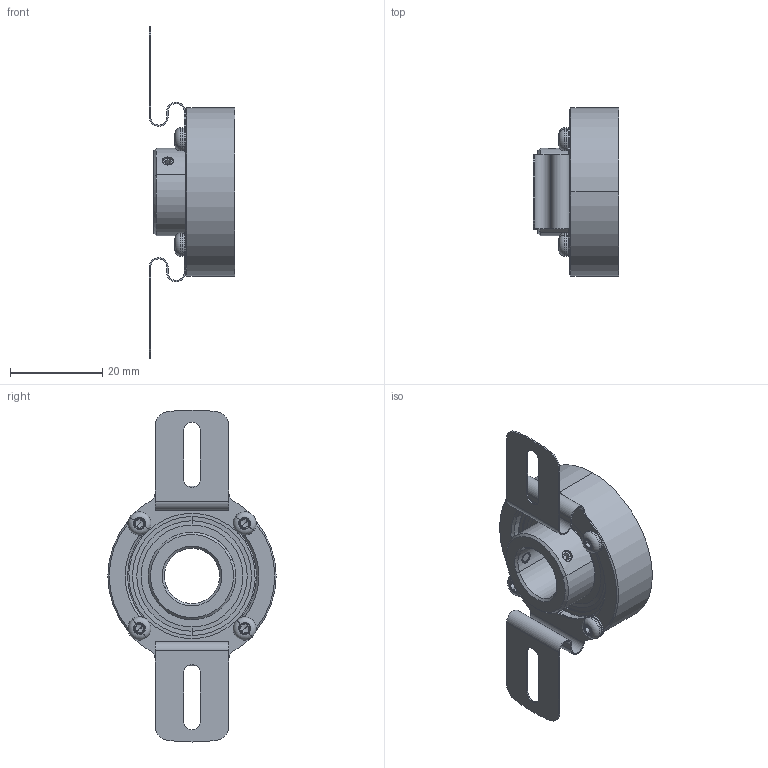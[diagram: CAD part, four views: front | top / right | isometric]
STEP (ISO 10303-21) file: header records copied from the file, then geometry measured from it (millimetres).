
FILE_DESCRIPTION (( 'STEP AP214' ), '1' );
FILE_NAME ('drawing-ucd-acb0-q3a-n.STEP', '2017-01-12T08:46:17', ( '' ), ( '' ), 'SwSTEP 2.0', 'SolidWorks 2015', '' );
FILE_SCHEMA (( 'AUTOMOTIVE_DESIGN' ));
Length unit declared in the file: millimetre
Products named in the file (1): drawing-ucd-acb0-q3a-n
Bounding box: 18.5 x 36.5 x 72 mm (x, y, z)
Volume: 9194.6 mm3; surface area: 13424.2 mm2
Topology: 27 solids, 27 shells, 507 faces, 1222 edges, 734 vertices
Faces by surface type: cylinder 162, cone 134, plane 111, bspline 60, torus 40
Entity records: 17038 total; most frequent: CARTESIAN_POINT 4974, DIRECTION 2604, ORIENTED_EDGE 2332, EDGE_CURVE 1166, AXIS2_PLACEMENT_3D 1120, VERTEX_POINT 734, CIRCLE 672, EDGE_LOOP 562
